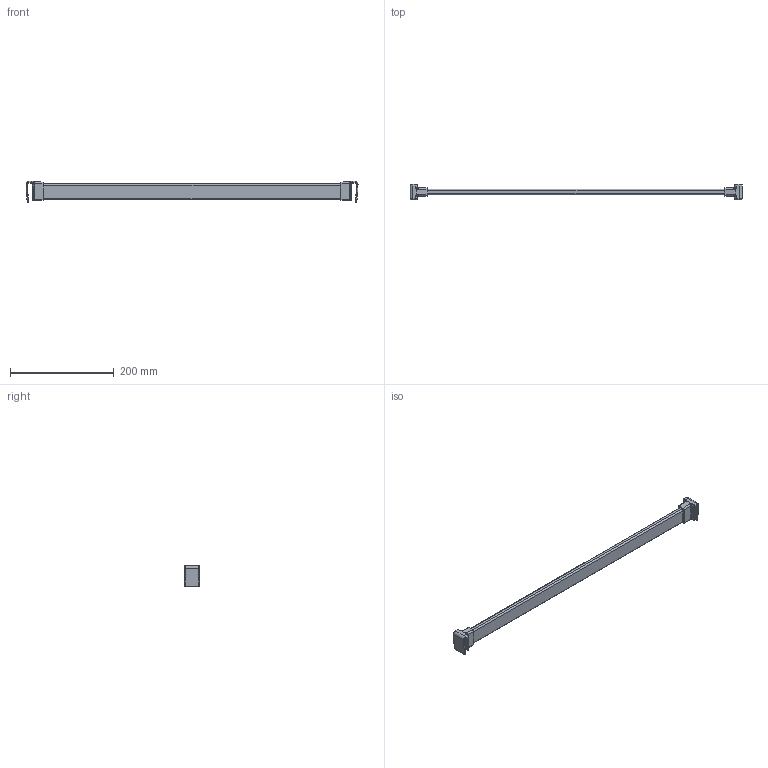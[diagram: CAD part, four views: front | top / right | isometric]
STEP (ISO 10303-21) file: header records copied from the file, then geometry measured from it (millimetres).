
FILE_DESCRIPTION (( 'STEP AP214' ), '1' );
FILE_NAME ('_Querreling_KAB-700_KS-16_P602_Glashalter.step', '2010-08-26T14:59:33', ( 'grass' ), ( '' ), 'SwSTEP 2.0', 'SolidWorks 2009', '' );
FILE_SCHEMA (( 'AUTOMOTIVE_DESIGN' ));
Length unit declared in the file: millimetre
Products named in the file (1): _Querreling_KAB-700_KS-16_P602_Glashalter
Bounding box: 640.78 x 30 x 41.5 mm (x, y, z)
Volume: 212166.5 mm3; surface area: 58235.9 mm2
Topology: 1 solids, 1 shells, 124 faces, 300 edges, 176 vertices
Faces by surface type: cylinder 58, plane 34, torus 16, bspline 12, sphere 4
Entity records: 5090 total; most frequent: CARTESIAN_POINT 2269, ORIENTED_EDGE 592, DIRECTION 590, EDGE_CURVE 296, AXIS2_PLACEMENT_3D 225, VERTEX_POINT 176, LINE 140, VECTOR 140
